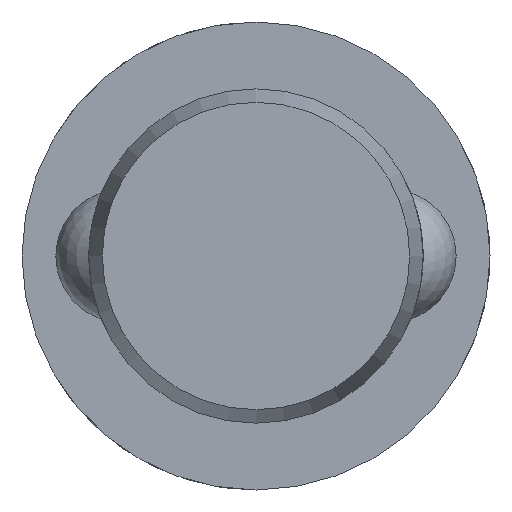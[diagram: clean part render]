
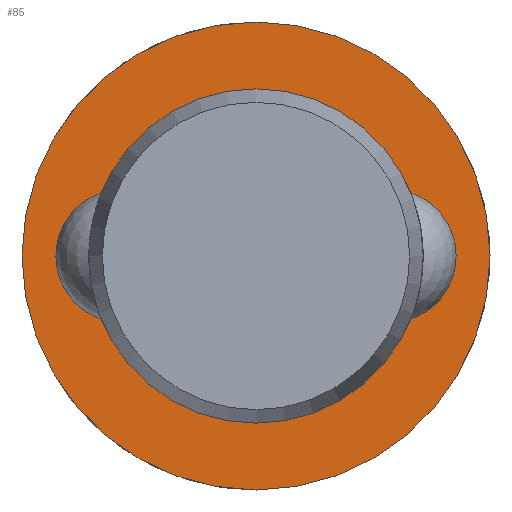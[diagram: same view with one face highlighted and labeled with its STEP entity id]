
A CAD part, left-side view. The second image highlights one B-rep face of the part: STEP entity #85.
In plain terms, the highlighted planar face has unit normal (-1, 0, 0).
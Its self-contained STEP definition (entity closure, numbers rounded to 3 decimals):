
#85 = ADVANCED_FACE( '', ( #130, #131 ), #132, .F. );
#130 = FACE_OUTER_BOUND( '', #200, .T. );
#131 = FACE_BOUND( '', #201, .T. );
#132 = PLANE( '', #202 );
#200 = EDGE_LOOP( '', ( #315 ) );
#201 = EDGE_LOOP( '', ( #316 ) );
#202 = AXIS2_PLACEMENT_3D( '', #317, #318, #319 );
#315 = ORIENTED_EDGE( '', *, *, #458, .F. );
#316 = ORIENTED_EDGE( '', *, *, #455, .T. );
#317 = CARTESIAN_POINT( '', ( 99.6, 5., 0. ) );
#318 = DIRECTION( '', ( 1., 0., 0. ) );
#319 = DIRECTION( '', ( 0., 0., -1. ) );
#455 = EDGE_CURVE( '', #528, #528, #529, .T. );
#458 = EDGE_CURVE( '', #534, #534, #535, .T. );
#528 = VERTEX_POINT( '', #732 );
#529 = CIRCLE( '', #733, 5. );
#534 = VERTEX_POINT( '', #844 );
#535 = CIRCLE( '', #845, 7. );
#732 = CARTESIAN_POINT( '', ( 99.6, 0., -5. ) );
#733 = AXIS2_PLACEMENT_3D( '', #922, #923, #924 );
#844 = CARTESIAN_POINT( '', ( 99.6, 0., -7. ) );
#845 = AXIS2_PLACEMENT_3D( '', #925, #926, #927 );
#922 = CARTESIAN_POINT( '', ( 99.6, 0., 0. ) );
#923 = DIRECTION( '', ( 1., 0., 0. ) );
#924 = DIRECTION( '', ( 0., 0., -1. ) );
#925 = CARTESIAN_POINT( '', ( 99.6, 0., 0. ) );
#926 = DIRECTION( '', ( 1., 0., 0. ) );
#927 = DIRECTION( '', ( 0., 0., -1. ) );
